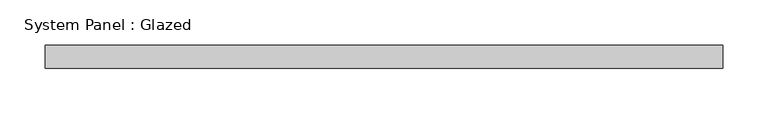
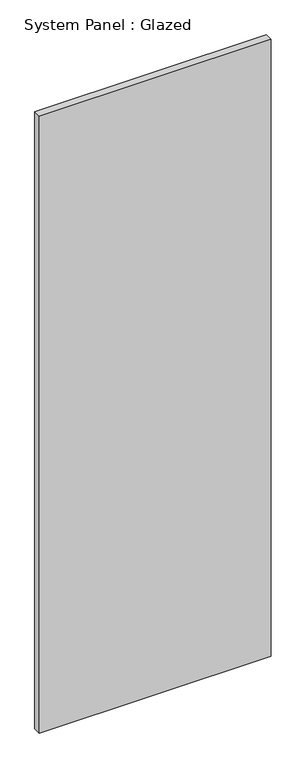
"""IFC4 building model written with IfcOpenShell, lengths in millimetres: plate geometry, System Panel : Glazed."""

import ifcopenshell
import ifcopenshell.guid

model = None  # the IFC model being written
_history = None  # IfcOwnerHistory: only IFC2X3 demands one
_inside = {}  # id of a spatial element -> (the spatial element, [elements in it])
_under = {}  # id of a project, library or spatial element -> (it, [spatial elements below it])
_declared = {}  # id of a project -> (the project, [libraries it declares])
_typed = {}  # id of a type object -> (the type object, [elements of that type])
_made_of = {}  # id of a material, layer set ... -> (it, [elements and type objects made of it])


def new_model(schema):
    """Start an empty IFC model of exactly this schema.

    Asked for "IFC4X3", IfcOpenShell would pick the latest addendum, in which some entities
    have other attributes; the version numbers below select the first issue.
    IFC2X3 requires an IfcOwnerHistory on every rooted entity: one is made here for all.
    """
    global model, _history
    if schema == "IFC4X3":
        model = ifcopenshell.file(schema_version=(4, 3, 0, 0))
    else:
        model = ifcopenshell.file(schema=schema)
    _inside.clear()
    _under.clear()
    _declared.clear()
    _typed.clear()
    _made_of.clear()
    _history = None
    if model.schema == "IFC2X3":
        org = make("IfcOrganization", Name="unknown")
        user = make(
            "IfcPersonAndOrganization",
            ThePerson=make("IfcPerson", FamilyName="unknown"),
            TheOrganization=org,
        )
        app = make(
            "IfcApplication",
            ApplicationDeveloper=org,
            Version="unknown",
            ApplicationFullName="unknown",
            ApplicationIdentifier="unknown",
        )
        _history = make(
            "IfcOwnerHistory",
            OwningUser=user,
            OwningApplication=app,
            ChangeAction="ADDED",
            CreationDate=0,
        )
    return model


def make(cls, **values):
    """One entity of the class cls with the attributes given. An attribute that is None is left unset."""
    return model.create_entity(
        cls, **{name: value for name, value in values.items() if value is not None}
    )


def rooted(cls, **values):
    """An entity with a GlobalId (a new one), such as an element, a storey or a relation."""
    return make(cls, GlobalId=ifcopenshell.guid.new(), OwnerHistory=_history, **values)


def si_unit(unit_type, name, prefix=None):
    """IfcSIUnit, for example si_unit("LENGTHUNIT", "METRE", prefix="MILLI")."""
    return make("IfcSIUnit", UnitType=unit_type, Prefix=prefix, Name=name)


def assignment(units):
    """IfcUnitAssignment: the units of a project."""
    return None if units is None else make("IfcUnitAssignment", Units=units)


def point(xyz):
    """IfcCartesianPoint."""
    return None if xyz is None else make("IfcCartesianPoint", Coordinates=xyz)


def direction(xyz):
    """IfcDirection."""
    return None if xyz is None else make("IfcDirection", DirectionRatios=xyz)


def frame(location, z_axis=None, x_axis=None):
    """IfcAxis2Placement3D, a coordinate frame: its origin and axes. An axis left out is left unset."""
    return make(
        "IfcAxis2Placement3D",
        Location=point(location),
        Axis=direction(z_axis),
        RefDirection=direction(x_axis),
    )


def origin():
    """The frame at (0, 0, 0) with its axes left unset."""
    return frame((0.0, 0.0, 0.0))


def origin_with_axes():
    """The frame at (0, 0, 0) with the z axis (0, 0, 1) and the x axis (1, 0, 0) written out."""
    return frame((0.0, 0.0, 0.0), z_axis=(0.0, 0.0, 1.0), x_axis=(1.0, 0.0, 0.0))


def place(relative_to, where):
    """IfcLocalPlacement: puts the frame where relative to a parent placement (None: the world)."""
    return make(
        "IfcLocalPlacement", PlacementRelTo=relative_to, RelativePlacement=where
    )


def context(
    kind, dimensions, precision=None, world=None, true_north=None, identifier=None
):
    """IfcGeometricRepresentationContext, for example the 3D "Model" context."""
    return make(
        "IfcGeometricRepresentationContext",
        ContextIdentifier=identifier,
        ContextType=kind,
        CoordinateSpaceDimension=dimensions,
        Precision=precision,
        WorldCoordinateSystem=world,
        TrueNorth=true_north,
    )


def project(units=None, contexts=None):
    """IfcProject with its units and contexts."""
    return rooted(
        "IfcProject",
        Name="project",
        RepresentationContexts=contexts,
        UnitsInContext=assignment(units),
    )


def spatial(cls, under=None, at=None, **own):
    """A site, building, storey or space (cls), placed at a placement, below another one or the project."""
    s = rooted(cls, ObjectPlacement=at, **own)
    if under is not None:
        _under.setdefault(under.id(), (under, []))[1].append(s)
    return s


def polyline(points):
    """IfcPolyline through the points."""
    return make("IfcPolyline", Points=[point(p) for p in points])


def outline(outer, holes=None, kind="AREA"):
    """IfcArbitraryClosedProfileDef: a profile drawn as a closed curve; with holes, ...WithVoids."""
    if holes is None:
        return make("IfcArbitraryClosedProfileDef", ProfileType=kind, OuterCurve=outer)
    return make(
        "IfcArbitraryProfileDefWithVoids",
        ProfileType=kind,
        OuterCurve=outer,
        InnerCurves=holes,
    )


def extrude(swept, where, along, depth):
    """IfcExtrudedAreaSolid: the profile swept, set in the frame where, extruded along a direction by depth."""
    return make(
        "IfcExtrudedAreaSolid",
        SweptArea=swept,
        Position=where,
        ExtrudedDirection=direction(along),
        Depth=depth,
    )


def shape(context_of_items, identifier, shape_type, items):
    """IfcShapeRepresentation: the items that make up one representation, for example the "Body"."""
    return make(
        "IfcShapeRepresentation",
        ContextOfItems=context_of_items,
        RepresentationIdentifier=identifier,
        RepresentationType=shape_type,
        Items=items,
    )


def source(mapping_origin, context_of_items, identifier, shape_type, items):
    """IfcRepresentationMap: a shape defined once, which mapped items show again and again."""
    return make(
        "IfcRepresentationMap",
        MappingOrigin=mapping_origin,
        MappedRepresentation=shape(context_of_items, identifier, shape_type, items),
    )


def transform(
    local_origin,
    x_axis=None,
    y_axis=None,
    z_axis=None,
    scale=None,
    scale2=None,
    scale3=None,
    uniform=True,
):
    """IfcCartesianTransformationOperator3D, or its non-uniform kind. x_axis, y_axis, z_axis: its Axis1, 2, 3."""
    if uniform:
        return make(
            "IfcCartesianTransformationOperator3D",
            Axis1=direction(x_axis),
            Axis2=direction(y_axis),
            LocalOrigin=point(local_origin),
            Scale=scale,
            Axis3=direction(z_axis),
        )
    return make(
        "IfcCartesianTransformationOperator3DnonUniform",
        Axis1=direction(x_axis),
        Axis2=direction(y_axis),
        LocalOrigin=point(local_origin),
        Scale=scale,
        Axis3=direction(z_axis),
        Scale2=scale2,
        Scale3=scale3,
    )


def mapped(mapping_source, mapping_target):
    """IfcMappedItem: shows the shape of a source again, moved by a transform."""
    return make(
        "IfcMappedItem", MappingSource=mapping_source, MappingTarget=mapping_target
    )


def made_of(thing, what):
    """Note that an element or type object is made of a material, layer set ...; save() writes the relation."""
    if what is not None:
        _made_of.setdefault(what.id(), (what, []))[1].append(thing)
    return thing


def element(
    cls,
    number,
    at=None,
    inside=None,
    cuts=None,
    type_object=None,
    material=None,
    context=None,
    identifier="Body",
    shape_type=None,
    held_by="IfcProductDefinitionShape",
    body=None,
    shapes=None,
    **own,
):
    """One element of the class cls, such as IfcWall. Its Tag is "e" and its number.

    at: its placement. inside: the storey or other place that contains it. cuts: it is an
    opening in that element (IfcRelVoidsElement). A single representation is given by context,
    identifier, shape_type and body (its items); several are given by shapes. held_by: the class
    of the entity that holds the representations. save() writes the other relations.
    """
    e = rooted(cls, Tag="e%d" % number, ObjectPlacement=at, **own)
    if body is not None:
        shapes = [shape(context, identifier, shape_type, body)]
    if shapes is not None:
        e.Representation = make(held_by, Representations=shapes)
    if inside is not None:
        _inside.setdefault(inside.id(), (inside, []))[1].append(e)
    if cuts is not None:
        rooted(
            "IfcRelVoidsElement", RelatingBuildingElement=cuts, RelatedOpeningElement=e
        )
    if type_object is not None:
        _typed.setdefault(type_object.id(), (type_object, []))[1].append(e)
    return made_of(e, material)


def aggregate(whole, parts):
    """IfcRelAggregates: a whole, such as a stair, and the parts it consists of."""
    return rooted("IfcRelAggregates", RelatingObject=whole, RelatedObjects=parts)


def save(model, path):
    """Write the relations noted so far, then the file.

    IfcRelAggregates (storeys below a building ...), IfcRelContainedInSpatialStructure (elements
    in a storey), IfcRelDefinesByType, IfcRelAssociatesMaterial and IfcRelDeclares: one each for
    every whole, place, type object, material and project.
    """
    for whole, parts in _under.values():
        aggregate(whole, parts)
    for where, things in _inside.values():
        rooted(
            "IfcRelContainedInSpatialStructure",
            RelatedElements=things,
            RelatingStructure=where,
        )
    for kind, things in _typed.values():
        rooted("IfcRelDefinesByType", RelatedObjects=things, RelatingType=kind)
    for what, things in _made_of.values():
        rooted("IfcRelAssociatesMaterial", RelatedObjects=things, RelatingMaterial=what)
    for by, libraries in _declared.values():
        rooted("IfcRelDeclares", RelatingContext=by, RelatedDefinitions=libraries)
    model.write(path)


def system_panel_glazed_f263d929(model_context):
    return source(origin(), model_context, "Body", "SweptSolid", [
        extrude(outline(polyline([(374.8688463, 19.05), (-374.8688463, 19.05), (-374.8688463, 44.45), (374.8688463, 44.45), (374.8688463, 19.05)])), origin_with_axes(), (0.0, 0.0, 1.0), 2108.2),
    ])


if __name__ == "__main__":
    model = new_model("IFC4")
    model_context = context("Model", 3, world=origin())
    ifc_project = project(units=[si_unit("LENGTHUNIT", "METRE", prefix="MILLI")], contexts=[model_context])
    site = spatial("IfcSite", under=ifc_project)
    building = spatial("IfcBuilding", under=site)
    placement = place(None, origin())
    system_panel_glazed_shape = system_panel_glazed_f263d929(model_context)
    element("IfcPlate", 1, ObjectType="System Panel : Glazed", at=placement, inside=building, context=model_context, shape_type="MappedRepresentation", body=[
        mapped(system_panel_glazed_shape, transform((0.0, 0.0, 0.0), x_axis=(1.0, 0.0, 0.0), y_axis=(0.0, 1.0, 0.0), z_axis=(0.0, 0.0, 1.0))),
    ])
    save(model, "model.ifc")
